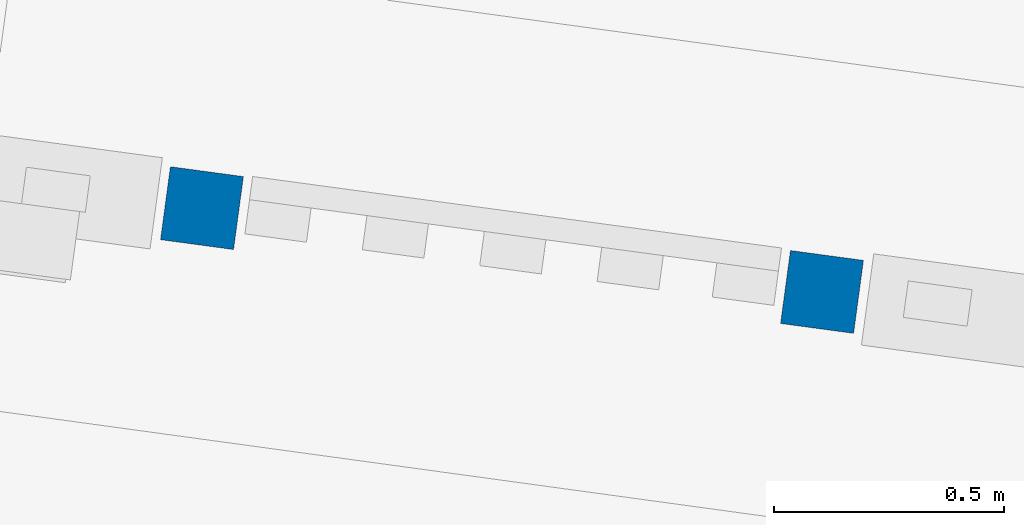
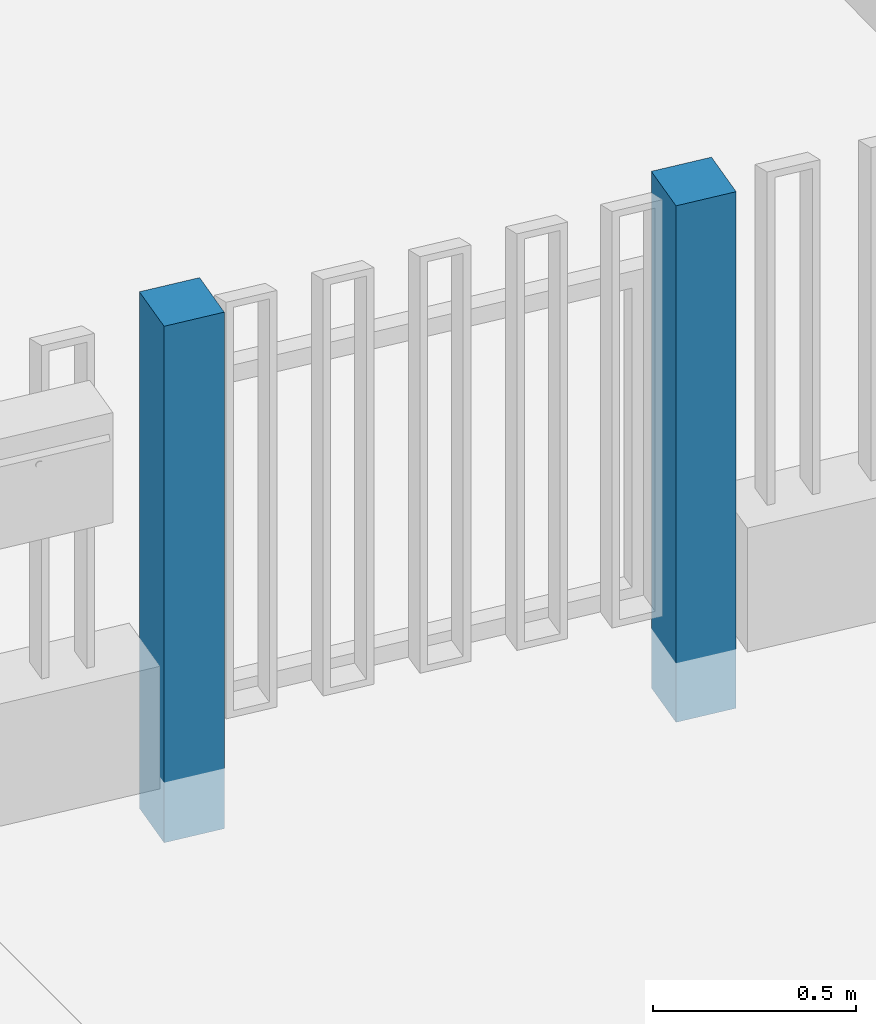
# One storey, part 1 of 77: 2 columns.
"""IFC2X3 building model written with IfcOpenShell, lengths in millimetres."""

from ifc_helpers import new_model, entity, si_unit, converted_unit, derived_unit, direction, frame, frame_2d, origin, origin_2d_with_axis, place, context, subcontext, project, spatial, rectangle, extrude, source, transform, mapped, material, type_object, type_shapes, element, save


model = new_model("IFC2X3")

# Units and contexts
model_context = context("Model", 3, precision=0.01, world=origin(), true_north=direction((6.12303176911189e-17, 1.0)))
body_context = subcontext(model_context, "Body", "Model", "MODEL_VIEW")
ifc_project = project(units=[si_unit("LENGTHUNIT", "METRE", prefix="MILLI"), si_unit("AREAUNIT", "SQUARE_METRE"), si_unit("VOLUMEUNIT", "CUBIC_METRE"), converted_unit("PLANEANGLEUNIT", "DEGREE", entity("IfcRatioMeasure", 0.0174532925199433), si_unit("PLANEANGLEUNIT", "RADIAN"), dimensions=[0, 0, 0, 0, 0, 0, 0]), si_unit("MASSUNIT", "GRAM", prefix="KILO"), derived_unit("MASSDENSITYUNIT", [(si_unit("MASSUNIT", "GRAM", prefix="KILO"), 1), (si_unit("LENGTHUNIT", "METRE"), -3)]), si_unit("TIMEUNIT", "SECOND"), si_unit("FREQUENCYUNIT", "HERTZ"), si_unit("THERMODYNAMICTEMPERATUREUNIT", "DEGREE_CELSIUS"), derived_unit("THERMALTRANSMITTANCEUNIT", [(si_unit("MASSUNIT", "GRAM", prefix="KILO"), 1), (si_unit("THERMODYNAMICTEMPERATUREUNIT", "KELVIN"), -1), (si_unit("TIMEUNIT", "SECOND"), -3)]), derived_unit("VOLUMETRICFLOWRATEUNIT", [(si_unit("LENGTHUNIT", "METRE"), 3), (si_unit("TIMEUNIT", "SECOND"), -1)]), si_unit("ELECTRICCURRENTUNIT", "AMPERE"), si_unit("ELECTRICVOLTAGEUNIT", "VOLT"), si_unit("POWERUNIT", "WATT"), si_unit("FORCEUNIT", "NEWTON", prefix="KILO"), si_unit("ILLUMINANCEUNIT", "LUX"), si_unit("LUMINOUSFLUXUNIT", "LUMEN"), si_unit("LUMINOUSINTENSITYUNIT", "CANDELA"), derived_unit("USERDEFINED", [(si_unit("MASSUNIT", "GRAM", prefix="KILO"), -1), (si_unit("LENGTHUNIT", "METRE"), -2), (si_unit("TIMEUNIT", "SECOND"), 3), (si_unit("LUMINOUSFLUXUNIT", "LUMEN"), 1)]), derived_unit("LINEARVELOCITYUNIT", [(si_unit("LENGTHUNIT", "METRE"), 1), (si_unit("TIMEUNIT", "SECOND"), -1)]), si_unit("PRESSUREUNIT", "PASCAL"), derived_unit("USERDEFINED", [(si_unit("LENGTHUNIT", "METRE"), -2), (si_unit("MASSUNIT", "GRAM", prefix="KILO"), 1), (si_unit("TIMEUNIT", "SECOND"), -2)])], contexts=[model_context])

# Site, building, storey
site_placement = place(None, origin())
site = spatial("IfcSite", under=ifc_project, at=site_placement, Name="Default", CompositionType="ELEMENT")
building_placement = place(site_placement, origin())
building = spatial("IfcBuilding", under=site, at=building_placement, CompositionType="ELEMENT")
storey_placement = place(building_placement, origin())
storey = spatial("IfcBuildingStorey", under=building, at=storey_placement, Name="1. KORRUS", CompositionType="ELEMENT", Elevation=0.0)

# Columns
ifc_material = material(Name="Default New Material(4)")
column_type_1 = type_object("IfcColumnType", Name="Teraspost 160x160", PredefinedType="COLUMN")
shared_shape_1 = source(origin(), body_context, "Body", "SweptSolid", [
    extrude(rectangle(XDim=160.0, YDim=159.999999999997, at=frame_2d((-7.105427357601e-15, 3.5527136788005e-14), x_axis=(1.0, 0.0))), frame((-371.137967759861, -19941.7004127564, -300.0), z_axis=(0.0, 0.0, 1.0), x_axis=(0.133932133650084, 0.990990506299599, 0.0)), (0.0, 0.0, 1.0), 1550.0),
])
type_shapes(column_type_1, [shared_shape_1])
column_1_placement = place(storey_placement, origin())
element("IfcColumn", 1, at=column_1_placement, inside=storey, type_object=column_type_1, material=ifc_material, Name="Columns_Rectangular1:Teraspost 160x160", ObjectType="Teraspost 160x160", context=body_context, shape_type="MappedRepresentation", body=[
    mapped(shared_shape_1, transform((0.0, 0.0, 0.0), scale=1.0)),
])
column_type_2 = type_object("IfcColumnType", Name="Teraspost 160x160", PredefinedType="COLUMN")
shared_shape_2 = source(origin(), body_context, "Body", "SweptSolid", [
    extrude(rectangle(XDim=160.0, YDim=159.999999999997, at=origin_2d_with_axis()), frame((-1718.88505632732, -19759.5527109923, -300.0), z_axis=(0.0, 0.0, 1.0), x_axis=(0.133932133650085, 0.990990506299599, 0.0)), (0.0, 0.0, 1.0), 1550.0),
])
type_shapes(column_type_2, [shared_shape_2])
column_2_placement = place(storey_placement, origin())
element("IfcColumn", 2, at=column_2_placement, inside=storey, type_object=column_type_2, material=ifc_material, Name="Columns_Rectangular1:Teraspost 160x160", ObjectType="Teraspost 160x160", context=body_context, shape_type="MappedRepresentation", body=[
    mapped(shared_shape_2, transform((0.0, 0.0, 0.0), scale=1.0)),
])

save(model, "model.ifc")
